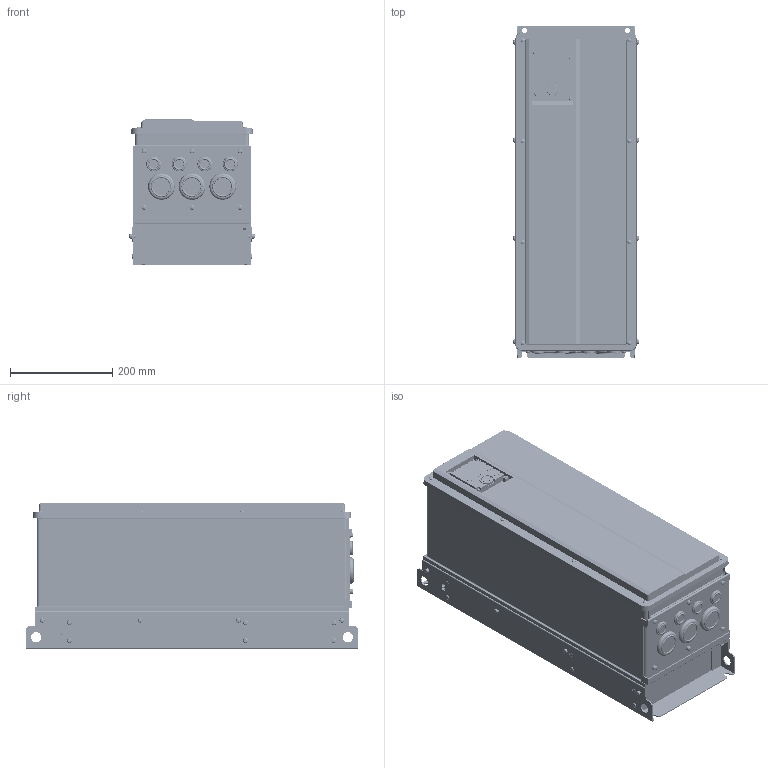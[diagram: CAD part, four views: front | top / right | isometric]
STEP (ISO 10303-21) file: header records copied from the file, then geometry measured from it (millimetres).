
FILE_DESCRIPTION((''),'2;1');
FILE_NAME('3D-INV-A8-09-02_ASM','2014-05-27T',('UJ56049'),(''),'PRO/ENGINEER BY PARAMETRIC TECHNOLOGY CORPORATION, 2011490','PRO/ENGINEER BY PARAMETRIC TECHNOLOGY CORPORATION, 2011490','');
FILE_SCHEMA(('CONFIG_CONTROL_DESIGN'));
Products named in the file (27): 3D-WAKU-A8-09_02-01; 3D-WAKU-A8-09-02_ASM; 3D-SW-M6-14-_GREEN-A8; 3D-K-STE-BKT-FAN-A8-09-02; 3D-FAN-A8-09_02; 3D-SW-M4X32-A8; 3D-K-RES-FAN-A8-09_02; 3D-SWPWPNAM4X10_S902N034-A8; 3D-FAN_BASE_ASSY-A8-09_02_ASM; 3D-FAN_COV-A8-09_02; 3D-FAN_ASSY-A8-09_02_ASM; 3D-TA-A8; 3D-A8-TA_ASM; 3D-STE-CABLE-PLT-A8-09_02; 3D-GROM_C-30-SG-22A-A8-09_02; 3D-GROM_C-30-SG-42A-A8-09_02; 3D-STE-CABLE-PLT-A8-09_02_ASM; 3D-SW-M5X20-A8; 3D-BOLT_PLT-A8-09_02_ASM; 3D-B-DOT-A8-09_02; 3D-SW-M6X14-A8; 3D-TE-BOLT-ASSY-A8-09_02_ASM; 3D-K-TE_COV-A8-09_02; 3D-COV-A8-09_02-01; 3D-COV-A8-09_02-01_ASM; 3D-DU-IP55-A8; 3D-INV-A8-09-02_ASM
Assembly tree (53 placements, depth 3):
  3D-INV-A8-09-02_ASM
    3D-WAKU-A8-09-02_ASM
      3D-WAKU-A8-09_02-01
    3D-SW-M6-14-_GREEN-A8  x2
    3D-FAN_BASE_ASSY-A8-09_02_ASM
      3D-K-STE-BKT-FAN-A8-09-02
      3D-FAN-A8-09_02
      3D-SW-M4X32-A8  x2
      3D-K-RES-FAN-A8-09_02
      3D-SWPWPNAM4X10_S902N034-A8  x2
    3D-FAN_ASSY-A8-09_02_ASM
      3D-FAN-A8-09_02  x2
      3D-SW-M4X32-A8  x4
      3D-FAN_COV-A8-09_02
    3D-A8-TA_ASM
      3D-TA-A8
    3D-STE-CABLE-PLT-A8-09_02_ASM
      3D-STE-CABLE-PLT-A8-09_02
      3D-GROM_C-30-SG-22A-A8-09_02  x4
      3D-GROM_C-30-SG-42A-A8-09_02  x3
    3D-BOLT_PLT-A8-09_02_ASM
      3D-SW-M5X20-A8  x6
    3D-B-DOT-A8-09_02
    3D-TE-BOLT-ASSY-A8-09_02_ASM
      3D-SW-M6X14-A8  x9
    3D-K-TE_COV-A8-09_02
    3D-COV-A8-09_02-01_ASM
      3D-COV-A8-09_02-01
    3D-DU-IP55-A8
Bounding box: 246.4 x 650 x 286 mm (x, y, z)
Volume: 31001648.2 mm3; surface area: 1854206.3 mm2
Topology: 45 solids, 83 shells, 6484 faces, 16484 edges, 10636 vertices
Faces by surface type: plane 3953, cylinder 1847, torus 248, cone 194, sphere 158, bspline 84
Entity records: 180296 total; most frequent: CARTESIAN_POINT 39226, DIRECTION 29158, ORIENTED_EDGE 28896, EDGE_CURVE 14448, VECTOR 10522, LINE 10522, VERTEX_POINT 9420, AXIS2_PLACEMENT_3D 9318
